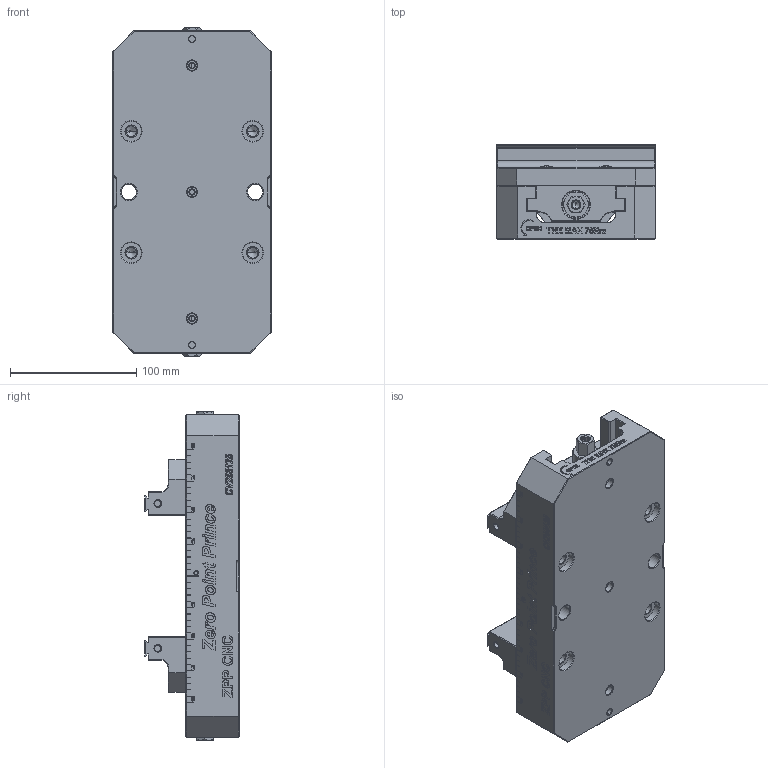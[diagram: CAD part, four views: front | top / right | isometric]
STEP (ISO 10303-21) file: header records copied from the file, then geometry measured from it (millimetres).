
FILE_DESCRIPTION((''),'2;1');
FILE_NAME('CV255125_ASM','2024-06-21T10:06:10',('XF'),(''),'CREO PARAMETRIC BY PTC INC, 2022073','CREO PARAMETRIC BY PTC INC, 2022073','');
FILE_SCHEMA(('CONFIG_CONTROL_DESIGN'));
Products named in the file (6): CV255125_1; PRT0004; PRT0005; PRT0008; PRT0014; CV255125_ASM
Assembly tree (7 placements, depth 2):
  CV255125_ASM
    CV255125_1
    PRT0004
    PRT0005
    PRT0008  x2
    PRT0014  x2
Bounding box: 125 x 74.41 x 260 mm (x, y, z)
Volume: 1217035.7 mm3; surface area: 221107 mm2
Topology: 7 solids, 33 shells, 8384 faces, 22708 edges, 15117 vertices
Faces by surface type: plane 7282, extrusion 770, cylinder 192, cone 128, bspline 8, torus 4
Entity records: 190396 total; most frequent: CARTESIAN_POINT 41652, ORIENTED_EDGE 32532, DIRECTION 26342, EDGE_CURVE 16306, VECTOR 14918, LINE 14148, VERTEX_POINT 10863, EDGE_LOOP 6461
